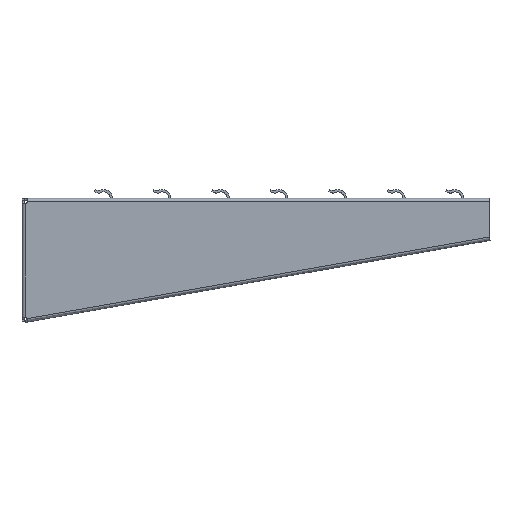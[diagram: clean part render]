
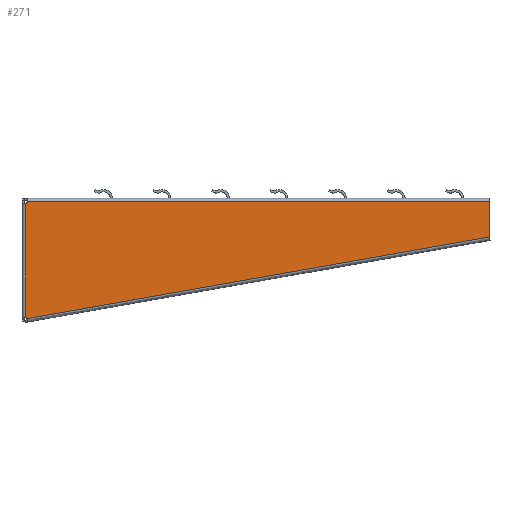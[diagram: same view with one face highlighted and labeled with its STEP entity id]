
A CAD part, left-side view. The second image highlights one B-rep face of the part: STEP entity #271.
In plain terms, the highlighted planar face has unit normal (-1, 0, 0).
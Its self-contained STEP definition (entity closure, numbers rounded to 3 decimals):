
#271=ADVANCED_FACE('',(#442),#2868,.T.);
#442=FACE_OUTER_BOUND('',#624,.T.);
#624=EDGE_LOOP('',(#1471,#1472,#1473,#1474,#1475,#1476,#1477,#1478,#1479,
#1480,#1481,#1482,#1483,#1484));
#1471=ORIENTED_EDGE('',*,*,#1890,.T.);
#1472=ORIENTED_EDGE('',*,*,#1883,.T.);
#1473=ORIENTED_EDGE('',*,*,#1880,.T.);
#1474=ORIENTED_EDGE('',*,*,#1877,.T.);
#1475=ORIENTED_EDGE('',*,*,#1874,.T.);
#1476=ORIENTED_EDGE('',*,*,#1988,.F.);
#1477=ORIENTED_EDGE('',*,*,#1987,.T.);
#1478=ORIENTED_EDGE('',*,*,#1990,.T.);
#1479=ORIENTED_EDGE('',*,*,#1885,.T.);
#1480=ORIENTED_EDGE('',*,*,#1992,.T.);
#1481=ORIENTED_EDGE('',*,*,#1993,.T.);
#1482=ORIENTED_EDGE('',*,*,#1866,.T.);
#1483=ORIENTED_EDGE('',*,*,#1863,.T.);
#1484=ORIENTED_EDGE('',*,*,#1985,.T.);
#1863=EDGE_CURVE('',#2678,#2674,#2174,.T.);
#1866=EDGE_CURVE('',#2680,#2678,#2177,.T.);
#1874=EDGE_CURVE('',#2688,#2686,#2185,.T.);
#1877=EDGE_CURVE('',#2690,#2688,#2188,.T.);
#1880=EDGE_CURVE('',#2692,#2690,#2191,.T.);
#1883=EDGE_CURVE('',#2694,#2692,#2194,.T.);
#1885=EDGE_CURVE('',#2696,#2684,#2196,.T.);
#1890=EDGE_CURVE('',#2676,#2694,#2199,.T.);
#1985=EDGE_CURVE('',#2674,#2676,#2263,.T.);
#1987=EDGE_CURVE('',#2699,#2698,#2455,.T.);
#1988=EDGE_CURVE('',#2699,#2686,#2265,.T.);
#1990=EDGE_CURVE('',#2698,#2696,#2267,.T.);
#1992=EDGE_CURVE('',#2684,#2682,#2269,.T.);
#1993=EDGE_CURVE('',#2682,#2680,#2270,.T.);
#2174=(
BOUNDED_CURVE()
B_SPLINE_CURVE(2,(#5189,#5190,#5191),.UNSPECIFIED.,.F.,.F.)
B_SPLINE_CURVE_WITH_KNOTS((3,3),(-1268.875,-1268.296),
 .UNSPECIFIED.)
CURVE()
GEOMETRIC_REPRESENTATION_ITEM()
RATIONAL_B_SPLINE_CURVE((1.,0.993,1.))
REPRESENTATION_ITEM('')
);
#2177=(
BOUNDED_CURVE()
B_SPLINE_CURVE(2,(#5197,#5198,#5199),.UNSPECIFIED.,.F.,.F.)
B_SPLINE_CURVE_WITH_KNOTS((3,3),(-1268.883,-1268.875),
 .UNSPECIFIED.)
CURVE()
GEOMETRIC_REPRESENTATION_ITEM()
RATIONAL_B_SPLINE_CURVE((1.,1.,1.))
REPRESENTATION_ITEM('')
);
#2185=(
BOUNDED_CURVE()
B_SPLINE_CURVE(2,(#5217,#5218,#5219),.UNSPECIFIED.,.F.,.F.)
B_SPLINE_CURVE_WITH_KNOTS((3,3),(-1094.881,-1094.302),
 .UNSPECIFIED.)
CURVE()
GEOMETRIC_REPRESENTATION_ITEM()
RATIONAL_B_SPLINE_CURVE((1.,0.993,1.))
REPRESENTATION_ITEM('')
);
#2188=(
BOUNDED_CURVE()
B_SPLINE_CURVE(2,(#5225,#5226,#5227),.UNSPECIFIED.,.F.,.F.)
B_SPLINE_CURVE_WITH_KNOTS((3,3),(-1094.889,-1094.881),
 .UNSPECIFIED.)
CURVE()
GEOMETRIC_REPRESENTATION_ITEM()
RATIONAL_B_SPLINE_CURVE((1.,1.,1.))
REPRESENTATION_ITEM('')
);
#2191=(
BOUNDED_CURVE()
B_SPLINE_CURVE(2,(#5233,#5234,#5235),.UNSPECIFIED.,.F.,.F.)
B_SPLINE_CURVE_WITH_KNOTS((3,3),(-1095.633,-1094.889),
 .UNSPECIFIED.)
CURVE()
GEOMETRIC_REPRESENTATION_ITEM()
RATIONAL_B_SPLINE_CURVE((1.,0.989,1.))
REPRESENTATION_ITEM('')
);
#2194=(
BOUNDED_CURVE()
B_SPLINE_CURVE(2,(#5241,#5242,#5243),.UNSPECIFIED.,.F.,.F.)
B_SPLINE_CURVE_WITH_KNOTS((3,3),(-1095.636,-1095.633),
 .UNSPECIFIED.)
CURVE()
GEOMETRIC_REPRESENTATION_ITEM()
RATIONAL_B_SPLINE_CURVE((1.,1.,1.))
REPRESENTATION_ITEM('')
);
#2196=(
BOUNDED_CURVE()
B_SPLINE_CURVE(2,(#5247,#5248,#5249),.UNSPECIFIED.,.F.,.F.)
B_SPLINE_CURVE_WITH_KNOTS((3,3),(-1270.653,-1270.067),
 .UNSPECIFIED.)
CURVE()
GEOMETRIC_REPRESENTATION_ITEM()
RATIONAL_B_SPLINE_CURVE((1.,0.993,1.))
REPRESENTATION_ITEM('')
);
#2199=(
BOUNDED_CURVE()
B_SPLINE_CURVE(2,(#5259,#5260,#5261),.UNSPECIFIED.,.F.,.F.)
B_SPLINE_CURVE_WITH_KNOTS((3,3),(-1096.223,-1095.636),
 .UNSPECIFIED.)
CURVE()
GEOMETRIC_REPRESENTATION_ITEM()
RATIONAL_B_SPLINE_CURVE((1.,0.994,1.))
REPRESENTATION_ITEM('')
);
#2263=(
BOUNDED_CURVE()
B_SPLINE_CURVE(1,(#5676,#5677),.UNSPECIFIED.,.F.,.F.)
B_SPLINE_CURVE_WITH_KNOTS((2,2),(0.,96.914),.UNSPECIFIED.)
CURVE()
GEOMETRIC_REPRESENTATION_ITEM()
RATIONAL_B_SPLINE_CURVE((1.,1.))
REPRESENTATION_ITEM('')
);
#2265=(
BOUNDED_CURVE()
B_SPLINE_CURVE(1,(#5682,#5683),.UNSPECIFIED.,.F.,.F.)
B_SPLINE_CURVE_WITH_KNOTS((2,2),(-401.209,0.),.UNSPECIFIED.)
CURVE()
GEOMETRIC_REPRESENTATION_ITEM()
RATIONAL_B_SPLINE_CURVE((1.,1.))
REPRESENTATION_ITEM('')
);
#2267=(
BOUNDED_CURVE()
B_SPLINE_CURVE(1,(#5686,#5687),.UNSPECIFIED.,.F.,.F.)
B_SPLINE_CURVE_WITH_KNOTS((2,2),(-394.93,0.),.UNSPECIFIED.)
CURVE()
GEOMETRIC_REPRESENTATION_ITEM()
RATIONAL_B_SPLINE_CURVE((1.,1.))
REPRESENTATION_ITEM('')
);
#2269=(
BOUNDED_CURVE()
B_SPLINE_CURVE(2,(#5690,#5691,#5692),.UNSPECIFIED.,.F.,.F.)
B_SPLINE_CURVE_WITH_KNOTS((3,3),(-1270.067,-1270.064),
 .UNSPECIFIED.)
CURVE()
GEOMETRIC_REPRESENTATION_ITEM()
RATIONAL_B_SPLINE_CURVE((1.,1.,1.))
REPRESENTATION_ITEM('')
);
#2270=(
BOUNDED_CURVE()
B_SPLINE_CURVE(2,(#5693,#5694,#5695),.UNSPECIFIED.,.F.,.F.)
B_SPLINE_CURVE_WITH_KNOTS((3,3),(-1270.064,-1268.883),
 .UNSPECIFIED.)
CURVE()
GEOMETRIC_REPRESENTATION_ITEM()
RATIONAL_B_SPLINE_CURVE((1.,0.972,1.))
REPRESENTATION_ITEM('')
);
#2455=B_SPLINE_CURVE_WITH_KNOTS('',1,(#5680,#5681),.UNSPECIFIED.,.F.,.F.,
(2,2),(-1759.636,-1729.68),.UNSPECIFIED.);
#2674=VERTEX_POINT('',#4793);
#2676=VERTEX_POINT('',#4795);
#2678=VERTEX_POINT('',#4797);
#2680=VERTEX_POINT('',#4799);
#2682=VERTEX_POINT('',#4801);
#2684=VERTEX_POINT('',#4803);
#2686=VERTEX_POINT('',#4805);
#2688=VERTEX_POINT('',#4807);
#2690=VERTEX_POINT('',#4809);
#2692=VERTEX_POINT('',#4811);
#2694=VERTEX_POINT('',#4813);
#2696=VERTEX_POINT('',#4815);
#2698=VERTEX_POINT('',#4817);
#2699=VERTEX_POINT('',#4818);
#2868=PLANE('',#3070);
#3070=AXIS2_PLACEMENT_3D('',#4697,#3188,$);
#3188=DIRECTION('',(-1.,0.,0.));
#4697=CARTESIAN_POINT('',(-17.265,33.386,31.013));
#4793=CARTESIAN_POINT('',(-17.265,-1.979,-3.089));
#4795=CARTESIAN_POINT('',(-17.265,-1.979,-100.003));
#4797=CARTESIAN_POINT('',(-17.265,-2.498,-2.848));
#4799=CARTESIAN_POINT('',(-17.265,-2.505,-2.844));
#4801=CARTESIAN_POINT('',(-17.265,-3.327,-2.019));
#4803=CARTESIAN_POINT('',(-17.265,-3.329,-2.017));
#4805=CARTESIAN_POINT('',(-17.265,-3.395,-101.191));
#4807=CARTESIAN_POINT('',(-17.265,-3.069,-100.722));
#4809=CARTESIAN_POINT('',(-17.265,-3.064,-100.716));
#4811=CARTESIAN_POINT('',(-17.265,-2.498,-100.243));
#4813=CARTESIAN_POINT('',(-17.265,-2.495,-100.241));
#4815=CARTESIAN_POINT('',(-17.265,-3.568,-1.5));
#4817=CARTESIAN_POINT('',(-17.265,-398.498,-1.5));
#4818=CARTESIAN_POINT('',(-17.265,-398.498,-31.456));
#5189=CARTESIAN_POINT('',(-17.265,-2.498,-2.848));
#5190=CARTESIAN_POINT('',(-17.265,-2.252,-2.998));
#5191=CARTESIAN_POINT('',(-17.265,-1.979,-3.089));
#5197=CARTESIAN_POINT('',(-17.265,-2.505,-2.844));
#5198=CARTESIAN_POINT('',(-17.265,-2.501,-2.846));
#5199=CARTESIAN_POINT('',(-17.265,-2.498,-2.848));
#5217=CARTESIAN_POINT('',(-17.265,-3.069,-100.722));
#5218=CARTESIAN_POINT('',(-17.265,-3.259,-100.938));
#5219=CARTESIAN_POINT('',(-17.265,-3.395,-101.191));
#5225=CARTESIAN_POINT('',(-17.265,-3.064,-100.716));
#5226=CARTESIAN_POINT('',(-17.265,-3.066,-100.719));
#5227=CARTESIAN_POINT('',(-17.265,-3.069,-100.722));
#5233=CARTESIAN_POINT('',(-17.265,-2.498,-100.243));
#5234=CARTESIAN_POINT('',(-17.265,-2.816,-100.437));
#5235=CARTESIAN_POINT('',(-17.265,-3.064,-100.716));
#5241=CARTESIAN_POINT('',(-17.265,-2.495,-100.241));
#5242=CARTESIAN_POINT('',(-17.265,-2.497,-100.242));
#5243=CARTESIAN_POINT('',(-17.265,-2.498,-100.243));
#5247=CARTESIAN_POINT('',(-17.265,-3.568,-1.5));
#5248=CARTESIAN_POINT('',(-17.265,-3.478,-1.772));
#5249=CARTESIAN_POINT('',(-17.265,-3.329,-2.017));
#5259=CARTESIAN_POINT('',(-17.265,-1.979,-100.003));
#5260=CARTESIAN_POINT('',(-17.265,-2.251,-100.093));
#5261=CARTESIAN_POINT('',(-17.265,-2.495,-100.241));
#5676=CARTESIAN_POINT('',(-17.265,-1.979,-3.089));
#5677=CARTESIAN_POINT('',(-17.265,-1.979,-100.003));
#5680=CARTESIAN_POINT('',(-17.265,-398.498,-31.456));
#5681=CARTESIAN_POINT('',(-17.265,-398.498,-1.5));
#5682=CARTESIAN_POINT('',(-17.265,-398.498,-31.456));
#5683=CARTESIAN_POINT('',(-17.265,-3.395,-101.191));
#5686=CARTESIAN_POINT('',(-17.265,-398.498,-1.5));
#5687=CARTESIAN_POINT('',(-17.265,-3.568,-1.5));
#5690=CARTESIAN_POINT('',(-17.265,-3.329,-2.017));
#5691=CARTESIAN_POINT('',(-17.265,-3.328,-2.018));
#5692=CARTESIAN_POINT('',(-17.265,-3.327,-2.019));
#5693=CARTESIAN_POINT('',(-17.265,-3.327,-2.019));
#5694=CARTESIAN_POINT('',(-17.265,-3.015,-2.53));
#5695=CARTESIAN_POINT('',(-17.265,-2.505,-2.844));
